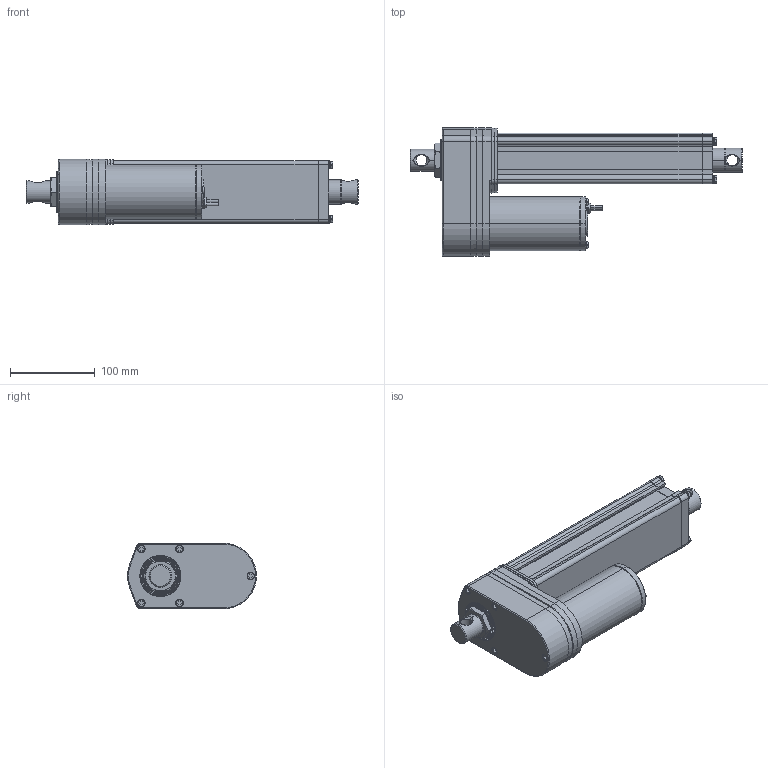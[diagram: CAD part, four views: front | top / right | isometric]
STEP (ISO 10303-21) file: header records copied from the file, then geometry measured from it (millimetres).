
FILE_DESCRIPTION((''),' ');
FILE_NAME('dszy12-200_std.stp',' ',('MSW'),('MSW'),' ','ACIS 14.0',' ');
FILE_SCHEMA(('automotive_design'));
Length unit declared in the file: inch
Products named in the file (2): dszy12-200_std
Bounding box: 391 x 151.7 x 77.2 mm (x, y, z)
Volume: 1949176 mm3; surface area: 211730 mm2
Topology: 2 solids, 2 shells, 1648 faces, 4015 edges, 2386 vertices
Faces by surface type: plane 1316, cylinder 218, cone 60, torus 30, bspline 24
Entity records: 60917 total; most frequent: CARTESIAN_POINT 8562, DIRECTION 8537, ORIENTED_EDGE 7982, EDGE_CURVE 3991, AXIS2_PLACEMENT_3D 2962, LINE 2613, VECTOR 2613, VERTEX_POINT 2386
